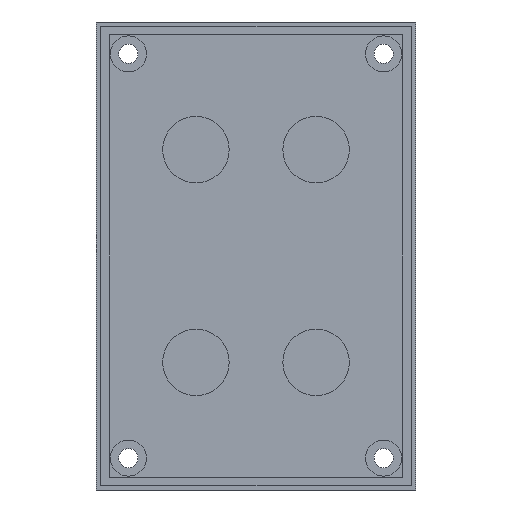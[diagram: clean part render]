
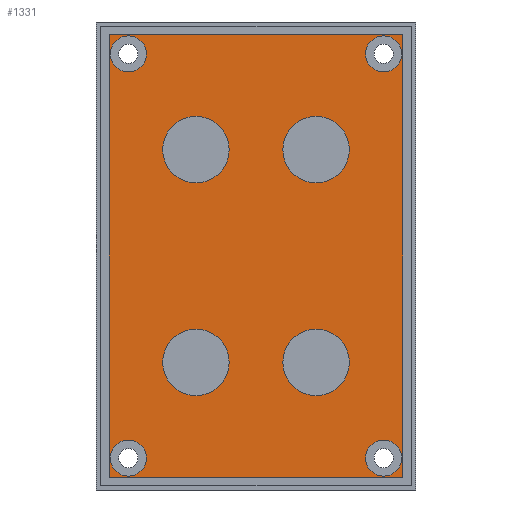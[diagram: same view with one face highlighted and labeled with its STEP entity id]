
A CAD part, left-side view. The second image highlights one B-rep face of the part: STEP entity #1331.
In plain terms, the highlighted planar face has unit normal (-1, 0, 0).
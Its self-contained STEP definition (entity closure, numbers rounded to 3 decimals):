
#1156 = VERTEX_POINT('',#1157);
#1157 = CARTESIAN_POINT('',(1.5,57.6,2.4));
#1163 = EDGE_CURVE('',#1156,#1164,#1166,.T.);
#1164 = VERTEX_POINT('',#1165);
#1165 = CARTESIAN_POINT('',(1.5,2.4,2.4));
#1166 = LINE('',#1167,#1168);
#1167 = CARTESIAN_POINT('',(1.5,1.2,2.4));
#1168 = VECTOR('',#1169,1.);
#1169 = DIRECTION('',(0.,-1.,0.));
#1187 = EDGE_CURVE('',#1156,#1188,#1190,.T.);
#1188 = VERTEX_POINT('',#1189);
#1189 = CARTESIAN_POINT('',(1.5,57.6,85.6));
#1190 = LINE('',#1191,#1192);
#1191 = CARTESIAN_POINT('',(1.5,57.6,1.2));
#1192 = VECTOR('',#1193,1.);
#1193 = DIRECTION('',(0.,0.,1.));
#1211 = EDGE_CURVE('',#1188,#1212,#1214,.T.);
#1212 = VERTEX_POINT('',#1213);
#1213 = CARTESIAN_POINT('',(1.5,2.4,85.6));
#1214 = LINE('',#1215,#1216);
#1215 = CARTESIAN_POINT('',(1.5,1.2,85.6));
#1216 = VECTOR('',#1217,1.);
#1217 = DIRECTION('',(0.,-1.,0.));
#1235 = EDGE_CURVE('',#1164,#1212,#1236,.T.);
#1236 = LINE('',#1237,#1238);
#1237 = CARTESIAN_POINT('',(1.5,2.4,1.2));
#1238 = VECTOR('',#1239,1.);
#1239 = DIRECTION('',(0.,0.,1.));
#1331 = ADVANCED_FACE('',(#1332,#1338,#1349,#1360,#1371,#1382,#1393,
    #1404,#1415),#1426,.F.);
#1332 = FACE_BOUND('',#1333,.F.);
#1333 = EDGE_LOOP('',(#1334,#1335,#1336,#1337));
#1334 = ORIENTED_EDGE('',*,*,#1163,.F.);
#1335 = ORIENTED_EDGE('',*,*,#1187,.T.);
#1336 = ORIENTED_EDGE('',*,*,#1211,.T.);
#1337 = ORIENTED_EDGE('',*,*,#1235,.F.);
#1338 = FACE_BOUND('',#1339,.F.);
#1339 = EDGE_LOOP('',(#1340));
#1340 = ORIENTED_EDGE('',*,*,#1341,.F.);
#1341 = EDGE_CURVE('',#1342,#1342,#1344,.T.);
#1342 = VERTEX_POINT('',#1343);
#1343 = CARTESIAN_POINT('',(1.5,54.,9.4));
#1344 = CIRCLE('',#1345,3.4);
#1345 = AXIS2_PLACEMENT_3D('',#1346,#1347,#1348);
#1346 = CARTESIAN_POINT('',(1.5,54.,6.));
#1347 = DIRECTION('',(1.,0.,-0.));
#1348 = DIRECTION('',(0.,0.,1.));
#1349 = FACE_BOUND('',#1350,.F.);
#1350 = EDGE_LOOP('',(#1351));
#1351 = ORIENTED_EDGE('',*,*,#1352,.F.);
#1352 = EDGE_CURVE('',#1353,#1353,#1355,.T.);
#1353 = VERTEX_POINT('',#1354);
#1354 = CARTESIAN_POINT('',(1.5,41.3,30.25));
#1355 = CIRCLE('',#1356,6.25);
#1356 = AXIS2_PLACEMENT_3D('',#1357,#1358,#1359);
#1357 = CARTESIAN_POINT('',(1.5,41.3,24.));
#1358 = DIRECTION('',(1.,0.,-0.));
#1359 = DIRECTION('',(0.,0.,1.));
#1360 = FACE_BOUND('',#1361,.F.);
#1361 = EDGE_LOOP('',(#1362));
#1362 = ORIENTED_EDGE('',*,*,#1363,.F.);
#1363 = EDGE_CURVE('',#1364,#1364,#1366,.T.);
#1364 = VERTEX_POINT('',#1365);
#1365 = CARTESIAN_POINT('',(1.5,54.,85.4));
#1366 = CIRCLE('',#1367,3.4);
#1367 = AXIS2_PLACEMENT_3D('',#1368,#1369,#1370);
#1368 = CARTESIAN_POINT('',(1.5,54.,82.));
#1369 = DIRECTION('',(1.,0.,-0.));
#1370 = DIRECTION('',(0.,0.,1.));
#1371 = FACE_BOUND('',#1372,.F.);
#1372 = EDGE_LOOP('',(#1373));
#1373 = ORIENTED_EDGE('',*,*,#1374,.F.);
#1374 = EDGE_CURVE('',#1375,#1375,#1377,.T.);
#1375 = VERTEX_POINT('',#1376);
#1376 = CARTESIAN_POINT('',(1.5,41.3,70.25));
#1377 = CIRCLE('',#1378,6.25);
#1378 = AXIS2_PLACEMENT_3D('',#1379,#1380,#1381);
#1379 = CARTESIAN_POINT('',(1.5,41.3,64.));
#1380 = DIRECTION('',(1.,0.,-0.));
#1381 = DIRECTION('',(0.,0.,1.));
#1382 = FACE_BOUND('',#1383,.F.);
#1383 = EDGE_LOOP('',(#1384));
#1384 = ORIENTED_EDGE('',*,*,#1385,.F.);
#1385 = EDGE_CURVE('',#1386,#1386,#1388,.T.);
#1386 = VERTEX_POINT('',#1387);
#1387 = CARTESIAN_POINT('',(1.5,18.7,30.25));
#1388 = CIRCLE('',#1389,6.25);
#1389 = AXIS2_PLACEMENT_3D('',#1390,#1391,#1392);
#1390 = CARTESIAN_POINT('',(1.5,18.7,24.));
#1391 = DIRECTION('',(1.,0.,-0.));
#1392 = DIRECTION('',(0.,0.,1.));
#1393 = FACE_BOUND('',#1394,.F.);
#1394 = EDGE_LOOP('',(#1395));
#1395 = ORIENTED_EDGE('',*,*,#1396,.F.);
#1396 = EDGE_CURVE('',#1397,#1397,#1399,.T.);
#1397 = VERTEX_POINT('',#1398);
#1398 = CARTESIAN_POINT('',(1.5,6.,9.4));
#1399 = CIRCLE('',#1400,3.4);
#1400 = AXIS2_PLACEMENT_3D('',#1401,#1402,#1403);
#1401 = CARTESIAN_POINT('',(1.5,6.,6.));
#1402 = DIRECTION('',(1.,0.,-0.));
#1403 = DIRECTION('',(0.,0.,1.));
#1404 = FACE_BOUND('',#1405,.F.);
#1405 = EDGE_LOOP('',(#1406));
#1406 = ORIENTED_EDGE('',*,*,#1407,.F.);
#1407 = EDGE_CURVE('',#1408,#1408,#1410,.T.);
#1408 = VERTEX_POINT('',#1409);
#1409 = CARTESIAN_POINT('',(1.5,18.7,70.25));
#1410 = CIRCLE('',#1411,6.25);
#1411 = AXIS2_PLACEMENT_3D('',#1412,#1413,#1414);
#1412 = CARTESIAN_POINT('',(1.5,18.7,64.));
#1413 = DIRECTION('',(1.,0.,-0.));
#1414 = DIRECTION('',(0.,0.,1.));
#1415 = FACE_BOUND('',#1416,.F.);
#1416 = EDGE_LOOP('',(#1417));
#1417 = ORIENTED_EDGE('',*,*,#1418,.F.);
#1418 = EDGE_CURVE('',#1419,#1419,#1421,.T.);
#1419 = VERTEX_POINT('',#1420);
#1420 = CARTESIAN_POINT('',(1.5,6.,85.4));
#1421 = CIRCLE('',#1422,3.4);
#1422 = AXIS2_PLACEMENT_3D('',#1423,#1424,#1425);
#1423 = CARTESIAN_POINT('',(1.5,6.,82.));
#1424 = DIRECTION('',(1.,0.,-0.));
#1425 = DIRECTION('',(0.,0.,1.));
#1426 = PLANE('',#1427);
#1427 = AXIS2_PLACEMENT_3D('',#1428,#1429,#1430);
#1428 = CARTESIAN_POINT('',(1.5,0.,0.));
#1429 = DIRECTION('',(1.,0.,0.));
#1430 = DIRECTION('',(0.,0.,1.));
